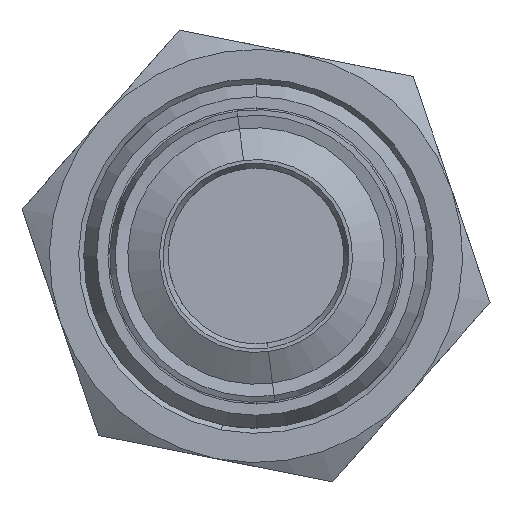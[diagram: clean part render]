
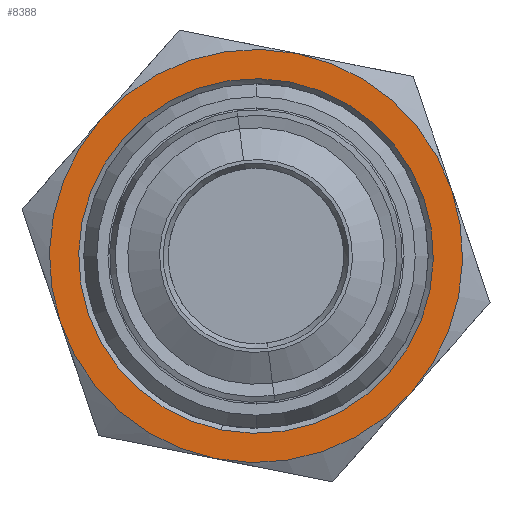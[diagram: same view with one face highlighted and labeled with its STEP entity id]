
A CAD part, front view. The second image highlights one B-rep face of the part: STEP entity #8388.
In plain terms, the highlighted planar face has unit normal (0, -1, 0).
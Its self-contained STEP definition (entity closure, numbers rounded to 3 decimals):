
#46 = DIRECTION ( 'NONE',  ( 0., -1., 0. ) ) ;
#642 = VERTEX_POINT ( 'NONE', #10984 ) ;
#685 = CARTESIAN_POINT ( 'NONE',  ( -20.526, 36.832, -6.248 ) ) ;
#784 = ORIENTED_EDGE ( 'NONE', *, *, #2218, .T. ) ;
#805 = ORIENTED_EDGE ( 'NONE', *, *, #4816, .T. ) ;
#883 = VERTEX_POINT ( 'NONE', #4481 ) ;
#885 = ORIENTED_EDGE ( 'NONE', *, *, #4840, .T. ) ;
#958 = ORIENTED_EDGE ( 'NONE', *, *, #4999, .T. ) ;
#992 = ORIENTED_EDGE ( 'NONE', *, *, #5017, .T. ) ;
#1070 = ORIENTED_EDGE ( 'NONE', *, *, #5066, .T. ) ;
#1131 = DIRECTION ( 'NONE',  ( -0.195, 0., -0.981 ) ) ;
#1153 = ORIENTED_EDGE ( 'NONE', *, *, #5135, .T. ) ;
#1167 = ORIENTED_EDGE ( 'NONE', *, *, #5241, .T. ) ;
#1238 = CARTESIAN_POINT ( 'NONE',  ( -18.188, 36.832, 5.522 ) ) ;
#1363 = PLANE ( 'NONE',  #3001 ) ;
#1523 = FACE_BOUND ( 'NONE', #7055, .T. ) ;
#1672 = FACE_OUTER_BOUND ( 'NONE', #3431, .T. ) ;
#2215 = DIRECTION ( 'NONE',  ( -0.195, 0., -0.981 ) ) ;
#2218 = EDGE_CURVE ( 'NONE', #6553, #6664, #10554, .T. ) ;
#2228 = DIRECTION ( 'NONE',  ( 0., 1., 0. ) ) ;
#2275 = CARTESIAN_POINT ( 'NONE',  ( -18.188, 36.832, 5.522 ) ) ;
#2312 = CIRCLE ( 'NONE', #7962, 12. ) ;
#3001 = AXIS2_PLACEMENT_3D ( 'NONE', #4701, #11688, #1131 ) ;
#3187 = CIRCLE ( 'NONE', #8192, 10.3 ) ;
#3431 = EDGE_LOOP ( 'NONE', ( #885, #958, #992, #1070, #1153, #1167 ) ) ;
#3610 = VERTEX_POINT ( 'NONE', #8941 ) ;
#3873 = CARTESIAN_POINT ( 'NONE',  ( -16.182, 36.832, 15.625 ) ) ;
#4099 = DIRECTION ( 'NONE',  ( -0.195, 0., -0.981 ) ) ;
#4361 = DIRECTION ( 'NONE',  ( 0., -1., 0. ) ) ;
#4481 = CARTESIAN_POINT ( 'NONE',  ( -15.851, 36.832, 17.292 ) ) ;
#4506 = CARTESIAN_POINT ( 'NONE',  ( -18.188, 36.832, 5.522 ) ) ;
#4701 = CARTESIAN_POINT ( 'NONE',  ( -18.188, 36.832, 5.522 ) ) ;
#4711 = CIRCLE ( 'NONE', #8145, 12. ) ;
#4816 = EDGE_CURVE ( 'NONE', #6664, #6553, #3187, .T. ) ;
#4840 = EDGE_CURVE ( 'NONE', #11080, #6627, #4711, .T. ) ;
#4999 = EDGE_CURVE ( 'NONE', #6627, #642, #7188, .T. ) ;
#5017 = EDGE_CURVE ( 'NONE', #642, #883, #8887, .T. ) ;
#5066 = EDGE_CURVE ( 'NONE', #883, #3610, #2312, .T. ) ;
#5092 = CARTESIAN_POINT ( 'NONE',  ( -29.55, 36.832, 1.661 ) ) ;
#5118 = DIRECTION ( 'NONE',  ( -0.195, 0., -0.981 ) ) ;
#5135 = EDGE_CURVE ( 'NONE', #3610, #5463, #6330, .T. ) ;
#5202 = DIRECTION ( 'NONE',  ( 0., -1., 0. ) ) ;
#5241 = EDGE_CURVE ( 'NONE', #5463, #11080, #6038, .T. ) ;
#5406 = CARTESIAN_POINT ( 'NONE',  ( -18.188, 36.832, 5.522 ) ) ;
#5421 = AXIS2_PLACEMENT_3D ( 'NONE', #2275, #2228, #2215 ) ;
#5463 = VERTEX_POINT ( 'NONE', #5092 ) ;
#5786 = DIRECTION ( 'NONE',  ( -0.195, 0., -0.981 ) ) ;
#5856 = DIRECTION ( 'NONE',  ( 0., 1., 0. ) ) ;
#5899 = CARTESIAN_POINT ( 'NONE',  ( -18.188, 36.832, 5.522 ) ) ;
#6038 = CIRCLE ( 'NONE', #7803, 12. ) ;
#6330 = CIRCLE ( 'NONE', #7816, 12. ) ;
#6553 = VERTEX_POINT ( 'NONE', #8926 ) ;
#6627 = VERTEX_POINT ( 'NONE', #7249 ) ;
#6664 = VERTEX_POINT ( 'NONE', #3873 ) ;
#7055 = EDGE_LOOP ( 'NONE', ( #784, #805 ) ) ;
#7188 = CIRCLE ( 'NONE', #8113, 12. ) ;
#7249 = CARTESIAN_POINT ( 'NONE',  ( -9.164, 36.832, -2.387 ) ) ;
#7803 = AXIS2_PLACEMENT_3D ( 'NONE', #8401, #8376, #8309 ) ;
#7816 = AXIS2_PLACEMENT_3D ( 'NONE', #9930, #9795, #9753 ) ;
#7962 = AXIS2_PLACEMENT_3D ( 'NONE', #11527, #11512, #11503 ) ;
#8083 = AXIS2_PLACEMENT_3D ( 'NONE', #1238, #46, #11477 ) ;
#8113 = AXIS2_PLACEMENT_3D ( 'NONE', #4506, #4361, #4099 ) ;
#8145 = AXIS2_PLACEMENT_3D ( 'NONE', #5406, #5202, #5118 ) ;
#8192 = AXIS2_PLACEMENT_3D ( 'NONE', #5899, #5856, #5786 ) ;
#8309 = DIRECTION ( 'NONE',  ( -0.195, 0., -0.981 ) ) ;
#8376 = DIRECTION ( 'NONE',  ( 0., -1., 0. ) ) ;
#8388 = ADVANCED_FACE ( 'NONE', ( #1523, #1672 ), #1363, .T. ) ;
#8401 = CARTESIAN_POINT ( 'NONE',  ( -18.188, 36.832, 5.522 ) ) ;
#8887 = CIRCLE ( 'NONE', #8083, 12. ) ;
#8926 = CARTESIAN_POINT ( 'NONE',  ( -20.194, 36.832, -4.581 ) ) ;
#8941 = CARTESIAN_POINT ( 'NONE',  ( -27.213, 36.832, 13.431 ) ) ;
#9753 = DIRECTION ( 'NONE',  ( -0.195, 0., -0.981 ) ) ;
#9795 = DIRECTION ( 'NONE',  ( 0., -1., 0. ) ) ;
#9930 = CARTESIAN_POINT ( 'NONE',  ( -18.188, 36.832, 5.522 ) ) ;
#10554 = CIRCLE ( 'NONE', #5421, 10.3 ) ;
#10984 = CARTESIAN_POINT ( 'NONE',  ( -6.826, 36.832, 9.383 ) ) ;
#11080 = VERTEX_POINT ( 'NONE', #685 ) ;
#11477 = DIRECTION ( 'NONE',  ( -0.195, 0., -0.981 ) ) ;
#11503 = DIRECTION ( 'NONE',  ( -0.195, 0., -0.981 ) ) ;
#11512 = DIRECTION ( 'NONE',  ( 0., -1., 0. ) ) ;
#11527 = CARTESIAN_POINT ( 'NONE',  ( -18.188, 36.832, 5.522 ) ) ;
#11688 = DIRECTION ( 'NONE',  ( 0., -1., 0. ) ) ;
